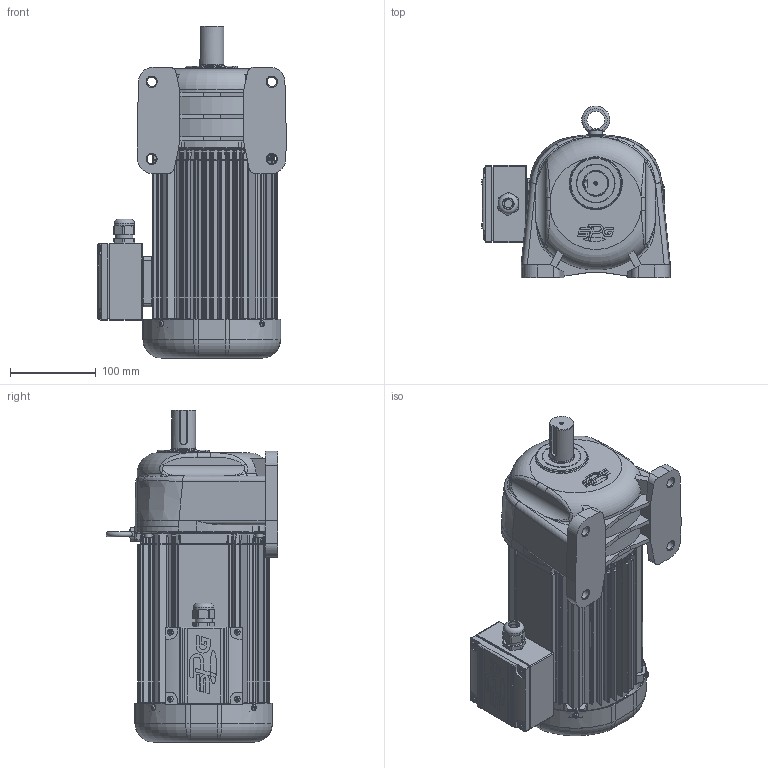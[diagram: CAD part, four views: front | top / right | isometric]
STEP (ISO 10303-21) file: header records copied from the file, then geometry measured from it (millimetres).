
FILE_DESCRIPTION(/* description */ (''),/* implementation_level */ '2;1');
FILE_NAME(/* name */ 'Z:\동력 3D 파일\PAL28-(5~25)-PA(B)075[ ]L_(3D).stp',/* time_stamp */ '2021-09-13T14:48:09+09:00',/* author */ ('jaebok'),/* organization */ (''),/* preprocessor_version */ 'ST-DEVELOPER v18.1',/* originating_system */ 'Autodesk Inventor 2022',/* authorisation */ '');
FILE_SCHEMA (('AUTOMOTIVE_DESIGN { 1 0 10303 214 3 1 1 }'));
Length unit declared in the file: millimetre
Products named in the file (1): 부품1
Bounding box: 220 x 200.3 x 387 mm (x, y, z)
Volume: 2043258 mm3; surface area: 691926.2 mm2
Topology: 2 solids, 33 shells, 3196 faces, 8197 edges, 4930 vertices
Faces by surface type: plane 1019, cylinder 887, bspline 780, torus 287, cone 125, sphere 98
Full cylindrical faces by diameter (mm): 2 x1, 3.25 x1, 3.5 x4, 3.6 x4, 4 x22, 4.2 x4, 4.917 x4, 5 x19, 5.5 x4, 6 x4, 6.647 x1, 7 x13, 8 x9, 8.5 x4, 10 x1, 11 x4, 12.5 x1, 15 x1, 18 x1, 19 x1, 20 x2, 20.6 x1, 21 x2, 23.6 x1, 25 x1, 28 x2, 29.6 x1, 30 x2, 32 x1, 35 x2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
Entity records: 129466 total; most frequent: CARTESIAN_POINT 53904, ORIENTED_EDGE 15956, DIRECTION 14050, EDGE_CURVE 7978, AXIS2_PLACEMENT_3D 5637, VERTEX_POINT 4932, EDGE_LOOP 3393, FACE_OUTER_BOUND 3196
